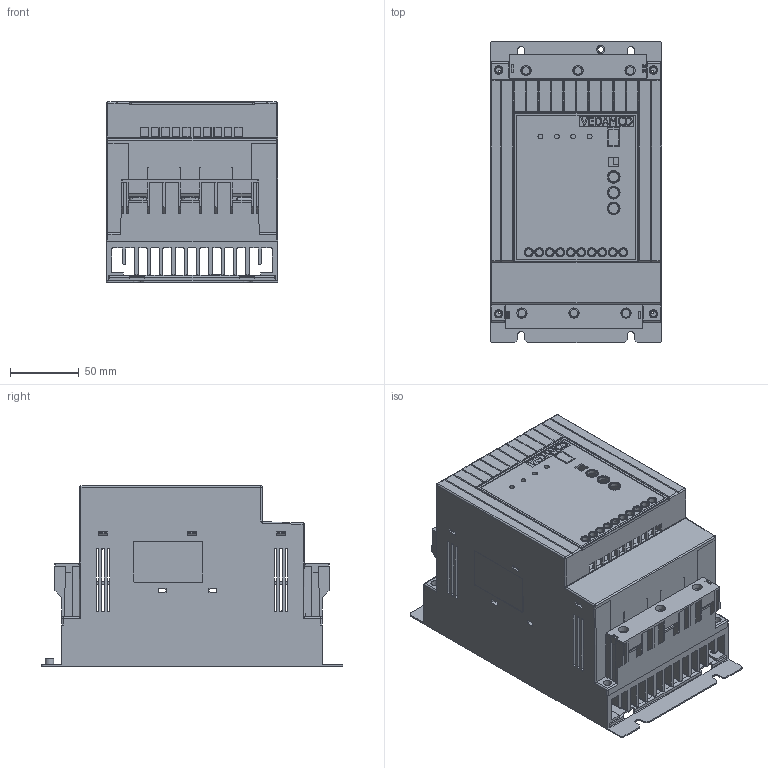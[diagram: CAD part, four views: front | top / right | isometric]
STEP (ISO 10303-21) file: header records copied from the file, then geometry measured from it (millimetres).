
FILE_DESCRIPTION(/* description */ (''),/* implementation_level */ '2;1');
FILE_NAME(/* name */ 'O:\БЭМ\Personal\Абрамов\010-18-2 РУНН Крюково\MCD\C3 31.10.2023.stp',/* time_stamp */ '2023-10-31T17:11:18+03:00',/* author */ ('a.abramov'),/* organization */ (''),/* preprocessor_version */ 'ST-DEVELOPER v18.1',/* originating_system */ 'Autodesk Inventor 2022',/* authorisation */ '');
FILE_SCHEMA (('AUTOMOTIVE_DESIGN { 1 0 10303 214 3 1 1 }'));
Products named in the file (1): C3
Bounding box: 125 x 220 x 131.7 mm (x, y, z)
Volume: 579774.2 mm3; surface area: 479451.4 mm2
Topology: 1 solids, 7 shells, 2695 faces, 7809 edges, 5099 vertices
Faces by surface type: plane 2208, cylinder 262, cone 167, bspline 46, sphere 10, torus 2
Full cylindrical faces by diameter (mm): 2.6 x6, 3 x9, 4 x5, 4.2 x4, 4.5 x4, 4.6 x5, 5 x5, 5.5 x5, 6 x1
Entity records: 92649 total; most frequent: CARTESIAN_POINT 18185, ORIENTED_EDGE 15602, DIRECTION 13783, EDGE_CURVE 7801, LINE 6585, VECTOR 6585, VERTEX_POINT 5099, AXIS2_PLACEMENT_3D 3599
